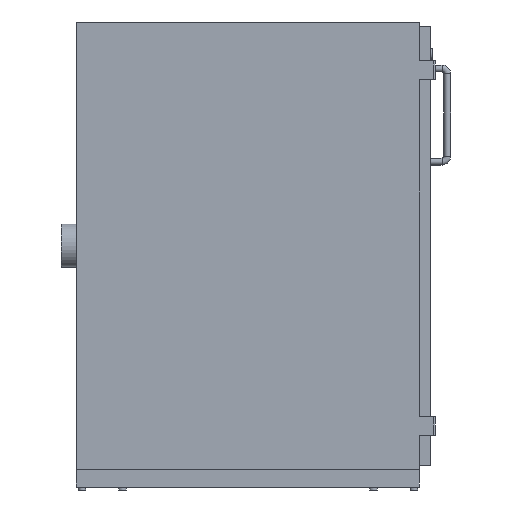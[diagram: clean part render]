
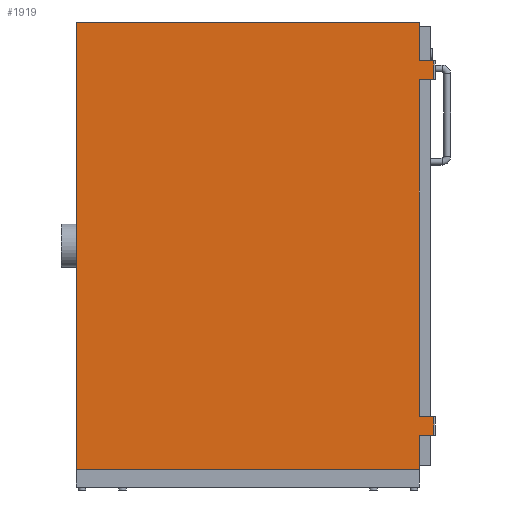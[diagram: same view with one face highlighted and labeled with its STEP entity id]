
A CAD part, left-side view. The second image highlights one B-rep face of the part: STEP entity #1919.
In plain terms, the highlighted planar face has unit normal (-1, 0, 0).
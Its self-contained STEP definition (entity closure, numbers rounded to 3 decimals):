
#125=LINE('',#2743,#249);
#126=LINE('',#2745,#250);
#127=LINE('',#2751,#251);
#128=LINE('',#2753,#252);
#130=LINE('',#2757,#254);
#135=LINE('',#2766,#259);
#137=LINE('',#2770,#261);
#138=LINE('',#2774,#262);
#139=LINE('',#2778,#263);
#141=LINE('',#2785,#265);
#146=LINE('',#2795,#270);
#147=LINE('',#2797,#271);
#249=VECTOR('',#2362,1000.);
#250=VECTOR('',#2365,1000.);
#251=VECTOR('',#2372,1000.);
#252=VECTOR('',#2375,1000.);
#254=VECTOR('',#2379,1000.);
#259=VECTOR('',#2384,1000.);
#261=VECTOR('',#2388,1000.);
#262=VECTOR('',#2393,1000.);
#263=VECTOR('',#2398,1000.);
#265=VECTOR('',#2406,1000.);
#270=VECTOR('',#2415,1000.);
#271=VECTOR('',#2418,1000.);
#325=PLANE('',#2047);
#641=ORIENTED_EDGE('',*,*,#819,.F.);
#642=ORIENTED_EDGE('',*,*,#817,.T.);
#643=ORIENTED_EDGE('',*,*,#815,.F.);
#644=ORIENTED_EDGE('',*,*,#813,.F.);
#645=ORIENTED_EDGE('',*,*,#827,.F.);
#646=ORIENTED_EDGE('',*,*,#828,.F.);
#647=ORIENTED_EDGE('',*,*,#822,.F.);
#648=ORIENTED_EDGE('',*,*,#808,.F.);
#649=ORIENTED_EDGE('',*,*,#806,.T.);
#650=ORIENTED_EDGE('',*,*,#805,.T.);
#651=ORIENTED_EDGE('',*,*,#802,.T.);
#652=ORIENTED_EDGE('',*,*,#801,.F.);
#801=EDGE_CURVE('',#937,#936,#125,.T.);
#802=EDGE_CURVE('',#938,#936,#126,.T.);
#805=EDGE_CURVE('',#939,#938,#127,.T.);
#806=EDGE_CURVE('',#940,#939,#128,.T.);
#808=EDGE_CURVE('',#940,#941,#130,.T.);
#813=EDGE_CURVE('',#944,#945,#135,.T.);
#815=EDGE_CURVE('',#945,#946,#137,.T.);
#817=EDGE_CURVE('',#947,#946,#138,.F.);
#819=EDGE_CURVE('',#947,#937,#139,.T.);
#822=EDGE_CURVE('',#941,#950,#141,.T.);
#827=EDGE_CURVE('',#952,#944,#146,.T.);
#828=EDGE_CURVE('',#950,#952,#147,.T.);
#936=VERTEX_POINT('',#2740);
#937=VERTEX_POINT('',#2742);
#938=VERTEX_POINT('',#2746);
#939=VERTEX_POINT('',#2750);
#940=VERTEX_POINT('',#2754);
#941=VERTEX_POINT('',#2758);
#944=VERTEX_POINT('',#2765);
#945=VERTEX_POINT('',#2767);
#946=VERTEX_POINT('',#2771);
#947=VERTEX_POINT('',#2775);
#950=VERTEX_POINT('',#2786);
#952=VERTEX_POINT('',#2794);
#1113=EDGE_LOOP('',(#641,#642,#643,#644,#645,#646,#647,#648,#649,#650,#651,
#652));
#1235=FACE_BOUND('',#1113,.T.);
#1919=ADVANCED_FACE('',(#1235),#325,.F.);
#2047=AXIS2_PLACEMENT_3D('',#2796,#2416,#2417);
#2362=DIRECTION('',(0.,0.,-1.));
#2365=DIRECTION('',(0.,1.,0.));
#2372=DIRECTION('',(0.,0.,1.));
#2375=DIRECTION('',(0.,-1.,0.));
#2379=DIRECTION('',(0.,0.,-1.));
#2384=DIRECTION('',(0.,0.,-1.));
#2388=DIRECTION('',(0.,-1.,0.));
#2393=DIRECTION('',(0.,0.,-1.));
#2398=DIRECTION('',(0.,1.,0.));
#2406=DIRECTION('',(0.,1.,0.));
#2415=DIRECTION('',(0.,-1.,0.));
#2416=DIRECTION('',(1.,0.,0.));
#2417=DIRECTION('',(0.,0.,-1.));
#2418=DIRECTION('',(0.,0.,1.));
#2740=CARTESIAN_POINT('',(0.,19.,126.247));
#2742=CARTESIAN_POINT('',(0.,19.,705.75));
#2743=CARTESIAN_POINT('',(0.,19.,1959.747));
#2745=CARTESIAN_POINT('',(0.,19.,126.247));
#2746=CARTESIAN_POINT('',(0.,-5.5,126.247));
#2750=CARTESIAN_POINT('',(0.,-5.5,93.747));
#2751=CARTESIAN_POINT('',(0.,-5.5,126.247));
#2753=CARTESIAN_POINT('',(0.,-8.5,93.747));
#2754=CARTESIAN_POINT('',(0.,19.,93.747));
#2757=CARTESIAN_POINT('',(0.,19.,1959.747));
#2758=CARTESIAN_POINT('',(0.,19.,35.));
#2765=CARTESIAN_POINT('',(0.,19.,805.));
#2766=CARTESIAN_POINT('',(0.,19.,1959.747));
#2767=CARTESIAN_POINT('',(0.,19.,738.25));
#2770=CARTESIAN_POINT('',(0.,19.,738.25));
#2771=CARTESIAN_POINT('',(0.,-5.5,738.25));
#2774=CARTESIAN_POINT('',(0.,-5.5,177.747));
#2775=CARTESIAN_POINT('',(0.,-5.5,705.75));
#2778=CARTESIAN_POINT('',(0.,-8.5,705.75));
#2785=CARTESIAN_POINT('',(0.,19.,35.));
#2786=CARTESIAN_POINT('',(0.,609.,35.));
#2794=CARTESIAN_POINT('',(0.,609.,805.));
#2795=CARTESIAN_POINT('',(0.,631.,805.));
#2796=CARTESIAN_POINT('',(0.,19.,3.747));
#2797=CARTESIAN_POINT('',(0.,609.,3.747));
